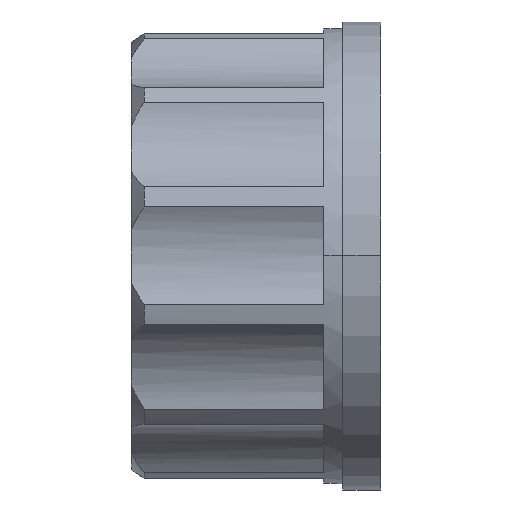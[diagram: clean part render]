
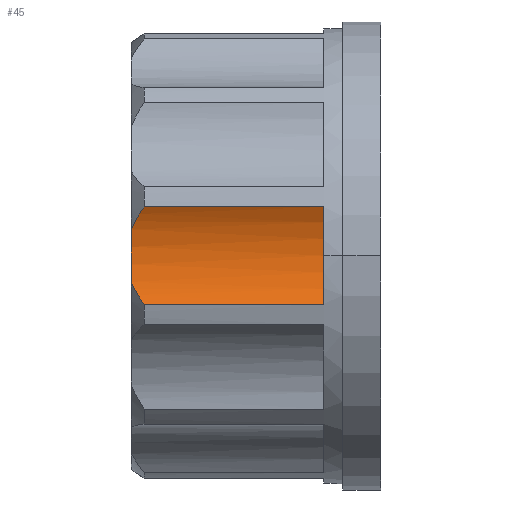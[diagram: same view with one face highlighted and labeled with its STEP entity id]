
A CAD part, top view. The second image highlights one B-rep face of the part: STEP entity #45.
In plain terms, the highlighted cylindrical face has radius 8 mm (diameter 16 mm), a partial arc.
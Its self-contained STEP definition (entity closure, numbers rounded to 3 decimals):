
#24 = ORIENTED_EDGE ( 'NONE', *, *, #2537, .T. ) ;
#45 = ADVANCED_FACE ( 'NONE', ( #5756 ), #5738, .F. ) ;
#54 = ORIENTED_EDGE ( 'NONE', *, *, #2010, .F. ) ;
#184 = EDGE_LOOP ( 'NONE', ( #3131, #1915, #54, #4677, #24, #310 ) ) ;
#310 = ORIENTED_EDGE ( 'NONE', *, *, #3464, .F. ) ;
#413 = CARTESIAN_POINT ( 'NONE',  ( -18.7, 3.845, 17.585 ) ) ;
#419 = CIRCLE ( 'NONE', #1329, 8. ) ;
#508 = CARTESIAN_POINT ( 'NONE',  ( -12.1, 3.845, 17.585 ) ) ;
#521 = DIRECTION ( 'NONE',  ( 1., 0., 0. ) ) ;
#522 = CIRCLE ( 'NONE', #1276, 8. ) ;
#661 = CARTESIAN_POINT ( 'NONE',  ( -4.5, 3.845, 17.585 ) ) ;
#1089 = CARTESIAN_POINT ( 'NONE',  ( -4.5, -3.845, 17.585 ) ) ;
#1221 = VERTEX_POINT ( 'NONE', #1317 ) ;
#1276 = AXIS2_PLACEMENT_3D ( 'NONE', #2816, #2807, #2800 ) ;
#1317 = CARTESIAN_POINT ( 'NONE',  ( -19.7, -2.073, 16.873 ) ) ;
#1329 = AXIS2_PLACEMENT_3D ( 'NONE', #3459, #6355, #3449 ) ;
#1653 = VERTEX_POINT ( 'NONE', #1089 ) ;
#1766 = B_SPLINE_CURVE_WITH_KNOTS ( 'NONE', 3,
 ( #3136, #3279, #3115, #3101 ),
 .UNSPECIFIED., .F., .F.,
 ( 4, 4 ),
 ( 0., 0.002 ),
 .UNSPECIFIED. ) ;
#1902 = AXIS2_PLACEMENT_3D ( 'NONE', #5956, #2053, #5047 ) ;
#1915 = ORIENTED_EDGE ( 'NONE', *, *, #2610, .F. ) ;
#2010 = EDGE_CURVE ( 'NONE', #5618, #5570, #2454, .T. ) ;
#2053 = DIRECTION ( 'NONE',  ( -1., 0., 0. ) ) ;
#2411 = VECTOR ( 'NONE', #521, 1000. ) ;
#2454 = LINE ( 'NONE', #508, #2411 ) ;
#2537 = EDGE_CURVE ( 'NONE', #3102, #1221, #419, .T. ) ;
#2610 = EDGE_CURVE ( 'NONE', #5570, #1653, #522, .T. ) ;
#2685 = CARTESIAN_POINT ( 'NONE',  ( -12.1, -3.845, 17.585 ) ) ;
#2783 = DIRECTION ( 'NONE',  ( -1., 0., 0. ) ) ;
#2800 = DIRECTION ( 'NONE',  ( 0., 1., 0. ) ) ;
#2807 = DIRECTION ( 'NONE',  ( -1., 0., 0. ) ) ;
#2816 = CARTESIAN_POINT ( 'NONE',  ( -4.5, 0., 24.6 ) ) ;
#2905 = EDGE_CURVE ( 'NONE', #3102, #5618, #5092, .T. ) ;
#3101 = CARTESIAN_POINT ( 'NONE',  ( -19.7, -2.073, 16.873 ) ) ;
#3102 = VERTEX_POINT ( 'NONE', #6044 ) ;
#3115 = CARTESIAN_POINT ( 'NONE',  ( -19.444, -2.731, 17.05 ) ) ;
#3131 = ORIENTED_EDGE ( 'NONE', *, *, #3485, .F. ) ;
#3136 = CARTESIAN_POINT ( 'NONE',  ( -18.7, -3.845, 17.585 ) ) ;
#3279 = CARTESIAN_POINT ( 'NONE',  ( -19.099, -3.313, 17.293 ) ) ;
#3449 = DIRECTION ( 'NONE',  ( 0., 1., 0. ) ) ;
#3459 = CARTESIAN_POINT ( 'NONE',  ( -19.7, 0., 24.6 ) ) ;
#3464 = EDGE_CURVE ( 'NONE', #5838, #1221, #1766, .T. ) ;
#3485 = EDGE_CURVE ( 'NONE', #1653, #5838, #4854, .T. ) ;
#4353 = CARTESIAN_POINT ( 'NONE',  ( -19.099, 3.313, 17.293 ) ) ;
#4372 = CARTESIAN_POINT ( 'NONE',  ( -19.444, 2.731, 17.05 ) ) ;
#4390 = CARTESIAN_POINT ( 'NONE',  ( -19.7, 2.073, 16.873 ) ) ;
#4400 = CARTESIAN_POINT ( 'NONE',  ( -18.7, 3.845, 17.585 ) ) ;
#4677 = ORIENTED_EDGE ( 'NONE', *, *, #2905, .F. ) ;
#4854 = LINE ( 'NONE', #2685, #4908 ) ;
#4908 = VECTOR ( 'NONE', #2783, 1000. ) ;
#5047 = DIRECTION ( 'NONE',  ( 0., 0., 1. ) ) ;
#5092 = B_SPLINE_CURVE_WITH_KNOTS ( 'NONE', 3,
 ( #4390, #4372, #4353, #4400 ),
 .UNSPECIFIED., .F., .F.,
 ( 4, 4 ),
 ( 0., 0.002 ),
 .UNSPECIFIED. ) ;
#5570 = VERTEX_POINT ( 'NONE', #661 ) ;
#5618 = VERTEX_POINT ( 'NONE', #413 ) ;
#5738 = CYLINDRICAL_SURFACE ( 'NONE', #1902, 8. ) ;
#5756 = FACE_OUTER_BOUND ( 'NONE', #184, .T. ) ;
#5833 = CARTESIAN_POINT ( 'NONE',  ( -18.7, -3.845, 17.585 ) ) ;
#5838 = VERTEX_POINT ( 'NONE', #5833 ) ;
#5956 = CARTESIAN_POINT ( 'NONE',  ( -4.5, 0., 24.6 ) ) ;
#6044 = CARTESIAN_POINT ( 'NONE',  ( -19.7, 2.073, 16.873 ) ) ;
#6355 = DIRECTION ( 'NONE',  ( -1., 0., 0. ) ) ;
